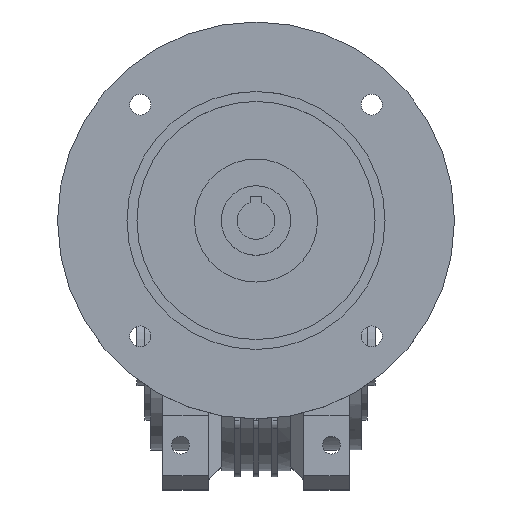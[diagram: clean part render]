
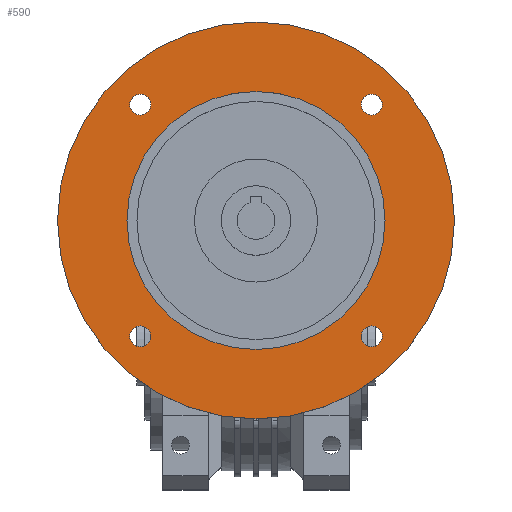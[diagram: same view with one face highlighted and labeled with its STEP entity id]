
A CAD part, top view. The second image highlights one B-rep face of the part: STEP entity #590.
In plain terms, the highlighted planar face has unit normal (0, 0, 1).
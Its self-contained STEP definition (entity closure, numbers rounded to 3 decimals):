
#590 = ADVANCED_FACE( '', ( #1462, #1463, #1464, #1465, #1466, #1467 ), #1468, .F. );
#1462 = FACE_BOUND( '', #2653, .T. );
#1463 = FACE_BOUND( '', #2654, .T. );
#1464 = FACE_BOUND( '', #2655, .T. );
#1465 = FACE_BOUND( '', #2656, .T. );
#1466 = FACE_OUTER_BOUND( '', #2657, .T. );
#1467 = FACE_BOUND( '', #2658, .T. );
#1468 = PLANE( '', #2659 );
#2653 = EDGE_LOOP( '', ( #4938 ) );
#2654 = EDGE_LOOP( '', ( #4939 ) );
#2655 = EDGE_LOOP( '', ( #4940 ) );
#2656 = EDGE_LOOP( '', ( #4941 ) );
#2657 = EDGE_LOOP( '', ( #4942 ) );
#2658 = EDGE_LOOP( '', ( #4943 ) );
#2659 = AXIS2_PLACEMENT_3D( '', #4944, #4945, #4946 );
#4938 = ORIENTED_EDGE( '', *, *, #7671, .T. );
#4939 = ORIENTED_EDGE( '', *, *, #7262, .T. );
#4940 = ORIENTED_EDGE( '', *, *, #7672, .T. );
#4941 = ORIENTED_EDGE( '', *, *, #7302, .T. );
#4942 = ORIENTED_EDGE( '', *, *, #7380, .F. );
#4943 = ORIENTED_EDGE( '', *, *, #7673, .T. );
#4944 = CARTESIAN_POINT( '', ( 0., 0., 20.5 ) );
#4945 = DIRECTION( '', ( 0., 0., -1. ) );
#4946 = DIRECTION( '', ( 0., 1., 0. ) );
#7262 = EDGE_CURVE( '', #8577, #8577, #8578, .T. );
#7302 = EDGE_CURVE( '', #8646, #8646, #8647, .T. );
#7380 = EDGE_CURVE( '', #8776, #8776, #8777, .T. );
#7671 = EDGE_CURVE( '', #9260, #9260, #9261, .T. );
#7672 = EDGE_CURVE( '', #9262, #9262, #9263, .T. );
#7673 = EDGE_CURVE( '', #9264, #9264, #9265, .T. );
#8577 = VERTEX_POINT( '', #10452 );
#8578 = CIRCLE( '', #10453, 5.25 );
#8646 = VERTEX_POINT( '', #10541 );
#8647 = CIRCLE( '', #10542, 65. );
#8776 = VERTEX_POINT( '', #10711 );
#8777 = CIRCLE( '', #10712, 100. );
#9260 = VERTEX_POINT( '', #11459 );
#9261 = CIRCLE( '', #11460, 5.25 );
#9262 = VERTEX_POINT( '', #11461 );
#9263 = CIRCLE( '', #11462, 5.25 );
#9264 = VERTEX_POINT( '', #11463 );
#9265 = CIRCLE( '', #11464, 5.25 );
#10452 = CARTESIAN_POINT( '', ( -63.586, -58.336, 20.5 ) );
#10453 = AXIS2_PLACEMENT_3D( '', #13429, #13430, #13431 );
#10541 = CARTESIAN_POINT( '', ( 65., 0., 20.5 ) );
#10542 = AXIS2_PLACEMENT_3D( '', #13482, #13483, #13484 );
#10711 = CARTESIAN_POINT( '', ( 100., 0., 20.5 ) );
#10712 = AXIS2_PLACEMENT_3D( '', #13582, #13583, #13584 );
#11459 = CARTESIAN_POINT( '', ( 58.336, -63.586, 20.5 ) );
#11460 = AXIS2_PLACEMENT_3D( '', #13935, #13936, #13937 );
#11461 = CARTESIAN_POINT( '', ( -58.336, 63.586, 20.5 ) );
#11462 = AXIS2_PLACEMENT_3D( '', #13938, #13939, #13940 );
#11463 = CARTESIAN_POINT( '', ( 63.586, 58.336, 20.5 ) );
#11464 = AXIS2_PLACEMENT_3D( '', #13941, #13942, #13943 );
#13429 = CARTESIAN_POINT( '', ( -58.336, -58.336, 20.5 ) );
#13430 = DIRECTION( '', ( 0., 0., -1. ) );
#13431 = DIRECTION( '', ( -1., 0., 0. ) );
#13482 = CARTESIAN_POINT( '', ( 0., 0., 20.5 ) );
#13483 = DIRECTION( '', ( 0., 0., -1. ) );
#13484 = DIRECTION( '', ( 1., 0., 0. ) );
#13582 = CARTESIAN_POINT( '', ( 0., 0., 20.5 ) );
#13583 = DIRECTION( '', ( 0., 0., -1. ) );
#13584 = DIRECTION( '', ( 1., 0., 0. ) );
#13935 = CARTESIAN_POINT( '', ( 58.336, -58.336, 20.5 ) );
#13936 = DIRECTION( '', ( 0., 0., -1. ) );
#13937 = DIRECTION( '', ( 0., -1., 0. ) );
#13938 = CARTESIAN_POINT( '', ( -58.336, 58.336, 20.5 ) );
#13939 = DIRECTION( '', ( 0., 0., -1. ) );
#13940 = DIRECTION( '', ( 0., 1., 0. ) );
#13941 = CARTESIAN_POINT( '', ( 58.336, 58.336, 20.5 ) );
#13942 = DIRECTION( '', ( 0., 0., -1. ) );
#13943 = DIRECTION( '', ( 1., 0., 0. ) );
